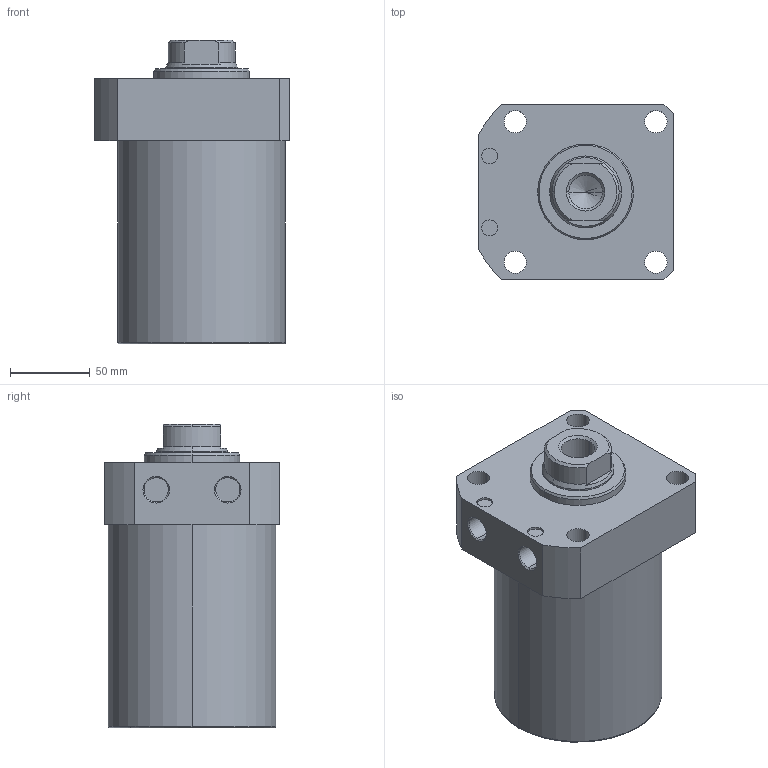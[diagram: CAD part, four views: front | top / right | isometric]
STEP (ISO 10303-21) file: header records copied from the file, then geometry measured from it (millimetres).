
FILE_DESCRIPTION (( 'STEP AP203' ), '1' );
FILE_NAME ('CLLR-105CA-080.STEP', '2019-12-18T07:04:30', ( '' ), ( '' ), 'SwSTEP 2.0', 'SolidWorks 2015', '' );
FILE_SCHEMA (( 'CONFIG_CONTROL_DESIGN' ));
Length unit declared in the file: millimetre
Products named in the file (1): CLLR-105CA-080
Bounding box: 122 x 110 x 190 mm (x, y, z)
Volume: 1596853.3 mm3; surface area: 100478.4 mm2
Topology: 1 solids, 1 shells, 65 faces, 153 edges, 96 vertices
Faces by surface type: cylinder 29, plane 19, cone 15, torus 2
Entity records: 1971 total; most frequent: DIRECTION 352, CARTESIAN_POINT 337, ORIENTED_EDGE 302, EDGE_CURVE 151, AXIS2_PLACEMENT_3D 143, VERTEX_POINT 96, EDGE_LOOP 81, CIRCLE 77
